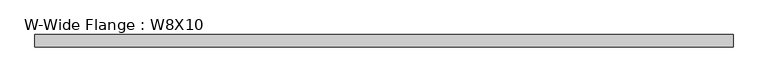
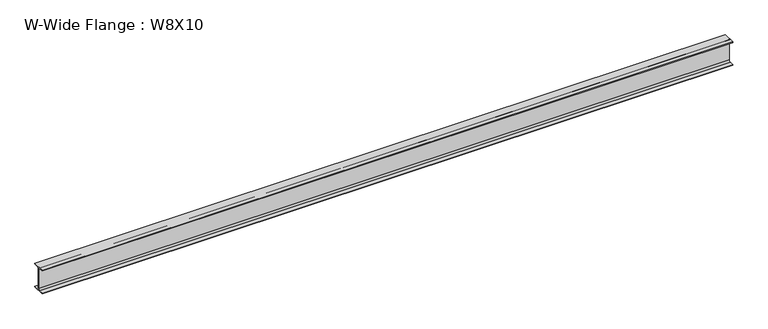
"""IFC4 building model written with IfcOpenShell, lengths in millimetres: beam geometry, W-Wide Flange : W8X10."""

import ifcopenshell
import ifcopenshell.guid

model = None  # the IFC model being written
_history = None  # IfcOwnerHistory: only IFC2X3 demands one
_inside = {}  # id of a spatial element -> (the spatial element, [elements in it])
_under = {}  # id of a project, library or spatial element -> (it, [spatial elements below it])
_declared = {}  # id of a project -> (the project, [libraries it declares])
_typed = {}  # id of a type object -> (the type object, [elements of that type])
_made_of = {}  # id of a material, layer set ... -> (it, [elements and type objects made of it])


def new_model(schema):
    """Start an empty IFC model of exactly this schema.

    Asked for "IFC4X3", IfcOpenShell would pick the latest addendum, in which some entities
    have other attributes; the version numbers below select the first issue.
    IFC2X3 requires an IfcOwnerHistory on every rooted entity: one is made here for all.
    """
    global model, _history
    if schema == "IFC4X3":
        model = ifcopenshell.file(schema_version=(4, 3, 0, 0))
    else:
        model = ifcopenshell.file(schema=schema)
    _inside.clear()
    _under.clear()
    _declared.clear()
    _typed.clear()
    _made_of.clear()
    _history = None
    if model.schema == "IFC2X3":
        org = make("IfcOrganization", Name="unknown")
        user = make(
            "IfcPersonAndOrganization",
            ThePerson=make("IfcPerson", FamilyName="unknown"),
            TheOrganization=org,
        )
        app = make(
            "IfcApplication",
            ApplicationDeveloper=org,
            Version="unknown",
            ApplicationFullName="unknown",
            ApplicationIdentifier="unknown",
        )
        _history = make(
            "IfcOwnerHistory",
            OwningUser=user,
            OwningApplication=app,
            ChangeAction="ADDED",
            CreationDate=0,
        )
    return model


def make(cls, **values):
    """One entity of the class cls with the attributes given. An attribute that is None is left unset."""
    return model.create_entity(
        cls, **{name: value for name, value in values.items() if value is not None}
    )


def rooted(cls, **values):
    """An entity with a GlobalId (a new one), such as an element, a storey or a relation."""
    return make(cls, GlobalId=ifcopenshell.guid.new(), OwnerHistory=_history, **values)


def si_unit(unit_type, name, prefix=None):
    """IfcSIUnit, for example si_unit("LENGTHUNIT", "METRE", prefix="MILLI")."""
    return make("IfcSIUnit", UnitType=unit_type, Prefix=prefix, Name=name)


def assignment(units):
    """IfcUnitAssignment: the units of a project."""
    return None if units is None else make("IfcUnitAssignment", Units=units)


def point(xyz):
    """IfcCartesianPoint."""
    return None if xyz is None else make("IfcCartesianPoint", Coordinates=xyz)


def direction(xyz):
    """IfcDirection."""
    return None if xyz is None else make("IfcDirection", DirectionRatios=xyz)


def frame(location, z_axis=None, x_axis=None):
    """IfcAxis2Placement3D, a coordinate frame: its origin and axes. An axis left out is left unset."""
    return make(
        "IfcAxis2Placement3D",
        Location=point(location),
        Axis=direction(z_axis),
        RefDirection=direction(x_axis),
    )


def frame_2d(location, x_axis=None):
    """IfcAxis2Placement2D, a coordinate frame in the plane: its origin and x axis."""
    return make(
        "IfcAxis2Placement2D", Location=point(location), RefDirection=direction(x_axis)
    )


def origin():
    """The frame at (0, 0, 0) with its axes left unset."""
    return frame((0.0, 0.0, 0.0))


def place(relative_to, where):
    """IfcLocalPlacement: puts the frame where relative to a parent placement (None: the world)."""
    return make(
        "IfcLocalPlacement", PlacementRelTo=relative_to, RelativePlacement=where
    )


def context(
    kind, dimensions, precision=None, world=None, true_north=None, identifier=None
):
    """IfcGeometricRepresentationContext, for example the 3D "Model" context."""
    return make(
        "IfcGeometricRepresentationContext",
        ContextIdentifier=identifier,
        ContextType=kind,
        CoordinateSpaceDimension=dimensions,
        Precision=precision,
        WorldCoordinateSystem=world,
        TrueNorth=true_north,
    )


def project(units=None, contexts=None):
    """IfcProject with its units and contexts."""
    return rooted(
        "IfcProject",
        Name="project",
        RepresentationContexts=contexts,
        UnitsInContext=assignment(units),
    )


def spatial(cls, under=None, at=None, **own):
    """A site, building, storey or space (cls), placed at a placement, below another one or the project."""
    s = rooted(cls, ObjectPlacement=at, **own)
    if under is not None:
        _under.setdefault(under.id(), (under, []))[1].append(s)
    return s


def polyline(points):
    """IfcPolyline through the points."""
    return make("IfcPolyline", Points=[point(p) for p in points])


def circle_curve(where, radius):
    """IfcCircle in the frame where."""
    return make("IfcCircle", Position=where, Radius=radius)


def trimmed(basis, trim1, trim2, sense, master):
    """IfcTrimmedCurve: the piece of a basis curve between two trims."""
    return make(
        "IfcTrimmedCurve",
        BasisCurve=basis,
        Trim1=trim1,
        Trim2=trim2,
        SenseAgreement=sense,
        MasterRepresentation=master,
    )


def segment(curve, same_sense, transition):
    """IfcCompositeCurveSegment."""
    return make(
        "IfcCompositeCurveSegment",
        Transition=transition,
        SameSense=same_sense,
        ParentCurve=curve,
    )


def composite_curve(segments, self_intersect=None):
    """IfcCompositeCurve: segments joined end to end."""
    return make("IfcCompositeCurve", Segments=segments, SelfIntersect=self_intersect)


def outline(outer, holes=None, kind="AREA"):
    """IfcArbitraryClosedProfileDef: a profile drawn as a closed curve; with holes, ...WithVoids."""
    if holes is None:
        return make("IfcArbitraryClosedProfileDef", ProfileType=kind, OuterCurve=outer)
    return make(
        "IfcArbitraryProfileDefWithVoids",
        ProfileType=kind,
        OuterCurve=outer,
        InnerCurves=holes,
    )


def extrude(swept, where, along, depth):
    """IfcExtrudedAreaSolid: the profile swept, set in the frame where, extruded along a direction by depth."""
    return make(
        "IfcExtrudedAreaSolid",
        SweptArea=swept,
        Position=where,
        ExtrudedDirection=direction(along),
        Depth=depth,
    )


def shape(context_of_items, identifier, shape_type, items):
    """IfcShapeRepresentation: the items that make up one representation, for example the "Body"."""
    return make(
        "IfcShapeRepresentation",
        ContextOfItems=context_of_items,
        RepresentationIdentifier=identifier,
        RepresentationType=shape_type,
        Items=items,
    )


def source(mapping_origin, context_of_items, identifier, shape_type, items):
    """IfcRepresentationMap: a shape defined once, which mapped items show again and again."""
    return make(
        "IfcRepresentationMap",
        MappingOrigin=mapping_origin,
        MappedRepresentation=shape(context_of_items, identifier, shape_type, items),
    )


def transform(
    local_origin,
    x_axis=None,
    y_axis=None,
    z_axis=None,
    scale=None,
    scale2=None,
    scale3=None,
    uniform=True,
):
    """IfcCartesianTransformationOperator3D, or its non-uniform kind. x_axis, y_axis, z_axis: its Axis1, 2, 3."""
    if uniform:
        return make(
            "IfcCartesianTransformationOperator3D",
            Axis1=direction(x_axis),
            Axis2=direction(y_axis),
            LocalOrigin=point(local_origin),
            Scale=scale,
            Axis3=direction(z_axis),
        )
    return make(
        "IfcCartesianTransformationOperator3DnonUniform",
        Axis1=direction(x_axis),
        Axis2=direction(y_axis),
        LocalOrigin=point(local_origin),
        Scale=scale,
        Axis3=direction(z_axis),
        Scale2=scale2,
        Scale3=scale3,
    )


def mapped(mapping_source, mapping_target):
    """IfcMappedItem: shows the shape of a source again, moved by a transform."""
    return make(
        "IfcMappedItem", MappingSource=mapping_source, MappingTarget=mapping_target
    )


def made_of(thing, what):
    """Note that an element or type object is made of a material, layer set ...; save() writes the relation."""
    if what is not None:
        _made_of.setdefault(what.id(), (what, []))[1].append(thing)
    return thing


def element(
    cls,
    number,
    at=None,
    inside=None,
    cuts=None,
    type_object=None,
    material=None,
    context=None,
    identifier="Body",
    shape_type=None,
    held_by="IfcProductDefinitionShape",
    body=None,
    shapes=None,
    **own,
):
    """One element of the class cls, such as IfcWall. Its Tag is "e" and its number.

    at: its placement. inside: the storey or other place that contains it. cuts: it is an
    opening in that element (IfcRelVoidsElement). A single representation is given by context,
    identifier, shape_type and body (its items); several are given by shapes. held_by: the class
    of the entity that holds the representations. save() writes the other relations.
    """
    e = rooted(cls, Tag="e%d" % number, ObjectPlacement=at, **own)
    if body is not None:
        shapes = [shape(context, identifier, shape_type, body)]
    if shapes is not None:
        e.Representation = make(held_by, Representations=shapes)
    if inside is not None:
        _inside.setdefault(inside.id(), (inside, []))[1].append(e)
    if cuts is not None:
        rooted(
            "IfcRelVoidsElement", RelatingBuildingElement=cuts, RelatedOpeningElement=e
        )
    if type_object is not None:
        _typed.setdefault(type_object.id(), (type_object, []))[1].append(e)
    return made_of(e, material)


def aggregate(whole, parts):
    """IfcRelAggregates: a whole, such as a stair, and the parts it consists of."""
    return rooted("IfcRelAggregates", RelatingObject=whole, RelatedObjects=parts)


def save(model, path):
    """Write the relations noted so far, then the file.

    IfcRelAggregates (storeys below a building ...), IfcRelContainedInSpatialStructure (elements
    in a storey), IfcRelDefinesByType, IfcRelAssociatesMaterial and IfcRelDeclares: one each for
    every whole, place, type object, material and project.
    """
    for whole, parts in _under.values():
        aggregate(whole, parts)
    for where, things in _inside.values():
        rooted(
            "IfcRelContainedInSpatialStructure",
            RelatedElements=things,
            RelatingStructure=where,
        )
    for kind, things in _typed.values():
        rooted("IfcRelDefinesByType", RelatedObjects=things, RelatingType=kind)
    for what, things in _made_of.values():
        rooted("IfcRelAssociatesMaterial", RelatedObjects=things, RelatingMaterial=what)
    for by, libraries in _declared.values():
        rooted("IfcRelDeclares", RelatingContext=by, RelatedDefinitions=libraries)
    model.write(path)


def w_wide_flange_w8x10_6a41b71d(model_context):
    return source(origin(), model_context, "Body", "SweptSolid", [
        extrude(outline(composite_curve([segment(polyline([(50.038, -94.996), (50.038, -100.203), (-50.038, -100.203), (-50.038, -94.996), (-14.4145, -94.996)]), True, "CONTINUOUS"), segment(trimmed(circle_curve(frame_2d((-14.4145, -82.7405)), 12.2555), [point((-14.4145, -94.996))], [point((-2.159, -82.7405))], True, "CARTESIAN"), True, "CONTINUOUS"), segment(polyline([(-2.159, -82.7405), (-2.159, 82.7405)]), True, "CONTINUOUS"), segment(trimmed(circle_curve(frame_2d((-14.4145, 82.7405)), 12.2555), [point((-2.159, 82.7405))], [point((-14.4145, 94.996))], True, "CARTESIAN"), True, "CONTINUOUS"), segment(polyline([(-14.4145, 94.996), (-50.038, 94.996), (-50.038, 100.203), (50.038, 100.203), (50.038, 94.996), (14.4145, 94.996)]), True, "CONTINUOUS"), segment(trimmed(circle_curve(frame_2d((14.4145, 82.7405)), 12.2555), [point((14.4145, 94.996))], [point((2.159, 82.7405))], True, "CARTESIAN"), True, "CONTINUOUS"), segment(polyline([(2.159, 82.7405), (2.159, -82.7405)]), True, "CONTINUOUS"), segment(trimmed(circle_curve(frame_2d((14.4145, -82.7405)), 12.2555), [point((2.159, -82.7405))], [point((14.4145, -94.996))], True, "CARTESIAN"), True, "CONTINUOUS"), segment(polyline([(14.4145, -94.996), (50.038, -94.996)]), True, "CONTINUOUS")], self_intersect=False)), frame((-2744.7378906, 0.0, 0.0), z_axis=(1.0, 0.0, 0.0), x_axis=(0.0, 1.0, 0.0)), (0.0, 0.0, 1.0), 5603.8253906),
    ])


if __name__ == "__main__":
    model = new_model("IFC4")
    model_context = context("Model", 3, world=origin())
    ifc_project = project(units=[si_unit("LENGTHUNIT", "METRE", prefix="MILLI")], contexts=[model_context])
    site = spatial("IfcSite", under=ifc_project)
    building = spatial("IfcBuilding", under=site)
    placement = place(None, origin())
    w_wide_flange_w8x10_shape = w_wide_flange_w8x10_6a41b71d(model_context)
    element("IfcBeam", 1, ObjectType="W-Wide Flange : W8X10", at=placement, inside=building, context=model_context, shape_type="MappedRepresentation", body=[
        mapped(w_wide_flange_w8x10_shape, transform((0.0, 0.0, 0.0), x_axis=(1.0, 0.0, 0.0), y_axis=(0.0, 1.0, 0.0), z_axis=(0.0, 0.0, 1.0))),
    ])
    save(model, "model.ifc")
